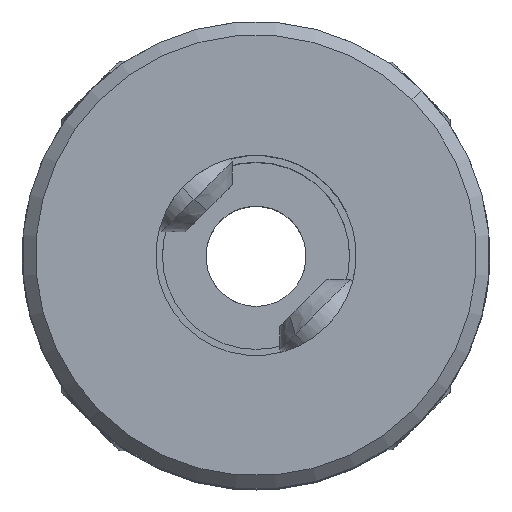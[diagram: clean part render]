
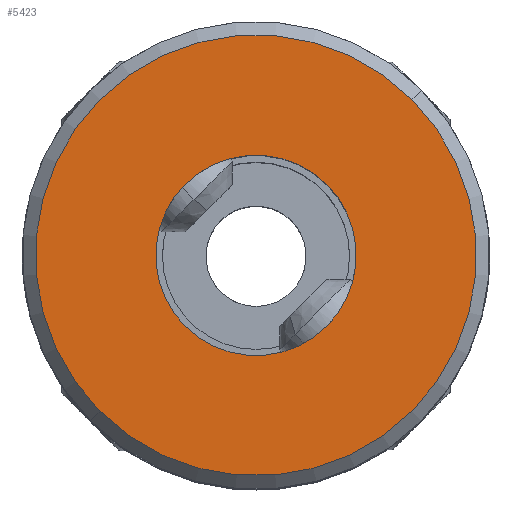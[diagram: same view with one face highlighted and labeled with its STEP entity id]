
A CAD part, top view. The second image highlights one B-rep face of the part: STEP entity #5423.
In plain terms, the highlighted planar face has unit normal (0, 0, 1).
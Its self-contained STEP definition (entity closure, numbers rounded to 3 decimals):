
#55 = CARTESIAN_POINT ( 'NONE',  ( -4.667, -4.667, 11. ) ) ;
#83 = CARTESIAN_POINT ( 'NONE',  ( 0., 0., 11. ) ) ;
#168 = FACE_OUTER_BOUND ( 'NONE', #6692, .T. ) ;
#534 = PLANE ( 'NONE',  #8831 ) ;
#538 = DIRECTION ( 'NONE',  ( 0., 0., -1. ) ) ;
#656 = CARTESIAN_POINT ( 'NONE',  ( 4.667, 4.667, 11. ) ) ;
#828 = VERTEX_POINT ( 'NONE', #55 ) ;
#855 = CARTESIAN_POINT ( 'NONE',  ( 0., 0., 11. ) ) ;
#1259 = AXIS2_PLACEMENT_3D ( 'NONE', #1346, #538, #1371 ) ;
#1305 = DIRECTION ( 'NONE',  ( 0., 0., -1. ) ) ;
#1330 = EDGE_CURVE ( 'NONE', #8700, #828, #7344, .T. ) ;
#1346 = CARTESIAN_POINT ( 'NONE',  ( 0., 0., 11. ) ) ;
#1371 = DIRECTION ( 'NONE',  ( -0.707, -0.707, 0. ) ) ;
#3188 = ORIENTED_EDGE ( 'NONE', *, *, #4107, .T. ) ;
#3609 = EDGE_CURVE ( 'NONE', #4137, #8091, #7272, .T. ) ;
#4107 = EDGE_CURVE ( 'NONE', #8091, #4137, #8962, .T. ) ;
#4137 = VERTEX_POINT ( 'NONE', #6111 ) ;
#4182 = DIRECTION ( 'NONE',  ( -0.707, -0.707, 0. ) ) ;
#4943 = CARTESIAN_POINT ( 'NONE',  ( 0., 0., 11. ) ) ;
#5041 = DIRECTION ( 'NONE',  ( 0., 0., 1. ) ) ;
#5423 = ADVANCED_FACE ( 'NONE', ( #168, #7764 ), #534, .F. ) ;
#5625 = DIRECTION ( 'NONE',  ( -0.707, -0.707, 0. ) ) ;
#5923 = DIRECTION ( 'NONE',  ( 0., 0., -1. ) ) ;
#6111 = CARTESIAN_POINT ( 'NONE',  ( -2.121, -2.121, 11. ) ) ;
#6692 = EDGE_LOOP ( 'NONE', ( #8456, #8656 ) ) ;
#6775 = ORIENTED_EDGE ( 'NONE', *, *, #3609, .T. ) ;
#6865 = AXIS2_PLACEMENT_3D ( 'NONE', #855, #5923, #10128 ) ;
#7272 = CIRCLE ( 'NONE', #6865, 3. ) ;
#7344 = CIRCLE ( 'NONE', #10135, 6.6 ) ;
#7547 = AXIS2_PLACEMENT_3D ( 'NONE', #4943, #5041, #4182 ) ;
#7764 = FACE_BOUND ( 'NONE', #8273, .T. ) ;
#8091 = VERTEX_POINT ( 'NONE', #9760 ) ;
#8273 = EDGE_LOOP ( 'NONE', ( #6775, #3188 ) ) ;
#8456 = ORIENTED_EDGE ( 'NONE', *, *, #10440, .T. ) ;
#8656 = ORIENTED_EDGE ( 'NONE', *, *, #1330, .T. ) ;
#8700 = VERTEX_POINT ( 'NONE', #656 ) ;
#8831 = AXIS2_PLACEMENT_3D ( 'NONE', #10580, #1305, #5625 ) ;
#8962 = CIRCLE ( 'NONE', #1259, 3. ) ;
#9277 = DIRECTION ( 'NONE',  ( -0.707, -0.707, 0. ) ) ;
#9760 = CARTESIAN_POINT ( 'NONE',  ( 2.121, 2.121, 11. ) ) ;
#9995 = DIRECTION ( 'NONE',  ( 0., 0., 1. ) ) ;
#10128 = DIRECTION ( 'NONE',  ( -0.707, -0.707, 0. ) ) ;
#10135 = AXIS2_PLACEMENT_3D ( 'NONE', #83, #9995, #9277 ) ;
#10440 = EDGE_CURVE ( 'NONE', #828, #8700, #10661, .T. ) ;
#10580 = CARTESIAN_POINT ( 'NONE',  ( 0., 0., 11. ) ) ;
#10661 = CIRCLE ( 'NONE', #7547, 6.6 ) ;
